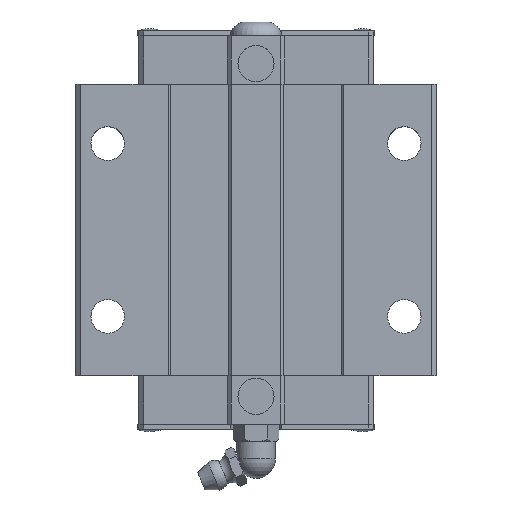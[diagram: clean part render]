
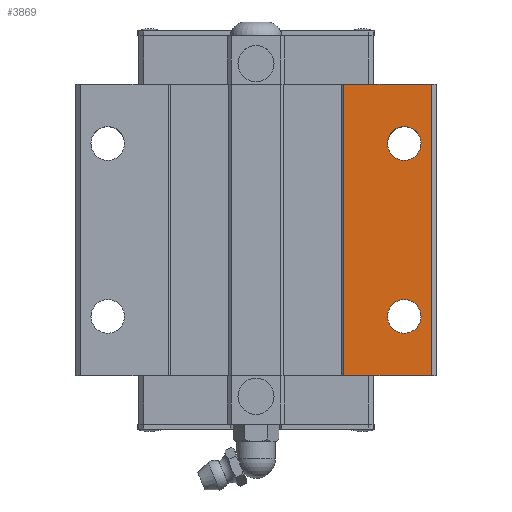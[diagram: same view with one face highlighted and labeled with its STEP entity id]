
A CAD part, top view. The second image highlights one B-rep face of the part: STEP entity #3869.
In plain terms, the highlighted planar face has unit normal (0, 0, 1).
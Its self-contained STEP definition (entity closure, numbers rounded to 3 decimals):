
#1927=EDGE_CURVE('',#4219,#4343,#5690,.T.);
#2061=VERTEX_POINT('',#5837);
#2127=VERTEX_POINT('',#5906);
#2773=EDGE_CURVE('',#3293,#2061,#6620,.T.);
#2841=EDGE_CURVE('',#2127,#3619,#6696,.T.);
#3201=VERTEX_POINT('',#7081);
#3293=VERTEX_POINT('',#7181);
#3531=VERTEX_POINT('',#7437);
#3619=VERTEX_POINT('',#7533);
#3669=EDGE_CURVE('',#3531,#4343,#7588,.T.);
#3789=EDGE_CURVE('',#3531,#3201,#7721,.T.);
#3869=ADVANCED_FACE('',(#7810,#7811,#7812),#7813,.T.);
#4219=VERTEX_POINT('',#8202);
#4343=VERTEX_POINT('',#8343);
#4483=EDGE_CURVE('',#2061,#3293,#8496,.T.);
#4687=EDGE_CURVE('',#3619,#2127,#8724,.T.);
#4725=EDGE_CURVE('',#3201,#4219,#8765,.T.);
#5690=LINE('',#9808,#9809);
#5837=CARTESIAN_POINT('',(26.6,22.8,33.0));
#5906=CARTESIAN_POINT('',(33.4,57.8,33.0));
#6620=CIRCLE('',#11356,3.4);
#6696=CIRCLE('',#11472,3.4);
#7081=CARTESIAN_POINT('',(17.75,69.8,33.0));
#7181=CARTESIAN_POINT('',(33.4,22.8,33.0));
#7437=CARTESIAN_POINT('',(35.5,69.8,33.0));
#7533=CARTESIAN_POINT('',(26.6,57.8,33.0));
#7588=LINE('',#12917,#12918);
#7721=LINE('',#13117,#13118);
#7810=FACE_OUTER_BOUND('',#13261,.T.);
#7811=FACE_BOUND('',#13262,.T.);
#7812=FACE_BOUND('',#13263,.T.);
#7813=PLANE('',#13264);
#8202=CARTESIAN_POINT('',(17.75,10.8,33.0));
#8343=CARTESIAN_POINT('',(35.5,10.8,33.0));
#8496=CIRCLE('',#14327,3.4);
#8724=CIRCLE('',#14690,3.4);
#8765=LINE('',#14751,#14752);
#9808=CARTESIAN_POINT('',(35.5,10.8,33.0));
#9809=VECTOR('',#16423,1.0);
#11356=AXIS2_PLACEMENT_3D('',#17399,#17400,#17401);
#11472=AXIS2_PLACEMENT_3D('',#17491,#17492,#17493);
#12917=CARTESIAN_POINT('',(35.5,69.8,33.0));
#12918=VECTOR('',#18430,1.0);
#13117=CARTESIAN_POINT('',(35.5,69.8,33.0));
#13118=VECTOR('',#18579,1.0);
#13261=EDGE_LOOP('',(#18675,#18676,#18677,#18678));
#13262=EDGE_LOOP('',(#18679,#18680));
#13263=EDGE_LOOP('',(#18681,#18682));
#13264=AXIS2_PLACEMENT_3D('',#18683,#18684,#18685);
#14327=AXIS2_PLACEMENT_3D('',#19584,#19585,#19586);
#14690=AXIS2_PLACEMENT_3D('',#19850,#19851,#19852);
#14751=CARTESIAN_POINT('',(17.75,84.55,33.0));
#14752=VECTOR('',#19895,1.0);
#16423=DIRECTION('',(1.0,0.0,0.0));
#17399=CARTESIAN_POINT('',(30.0,22.8,33.0));
#17400=DIRECTION('',(0.0,0.0,-1.0));
#17401=DIRECTION('',(1.0,0.0,0.0));
#17491=CARTESIAN_POINT('',(30.0,57.8,33.0));
#17492=DIRECTION('',(0.0,0.0,-1.0));
#17493=DIRECTION('',(1.0,0.0,0.0));
#18430=DIRECTION('',(0.0,-1.0,0.0));
#18579=DIRECTION('',(-1.0,0.0,0.0));
#18675=ORIENTED_EDGE('',*,*,#4725,.T.);
#18676=ORIENTED_EDGE('',*,*,#1927,.T.);
#18677=ORIENTED_EDGE('',*,*,#3669,.F.);
#18678=ORIENTED_EDGE('',*,*,#3789,.T.);
#18679=ORIENTED_EDGE('',*,*,#2841,.T.);
#18680=ORIENTED_EDGE('',*,*,#4687,.T.);
#18681=ORIENTED_EDGE('',*,*,#2773,.T.);
#18682=ORIENTED_EDGE('',*,*,#4483,.T.);
#18683=CARTESIAN_POINT('',(-35.5,69.8,33.0));
#18684=DIRECTION('',(0.0,0.0,1.0));
#18685=DIRECTION('',(-1.0,0.0,0.0));
#19584=CARTESIAN_POINT('',(30.0,22.8,33.0));
#19585=DIRECTION('',(0.0,0.0,-1.0));
#19586=DIRECTION('',(1.0,0.0,0.0));
#19850=CARTESIAN_POINT('',(30.0,57.8,33.0));
#19851=DIRECTION('',(0.0,0.0,-1.0));
#19852=DIRECTION('',(1.0,0.0,0.0));
#19895=DIRECTION('',(0.0,-1.0,0.0));
